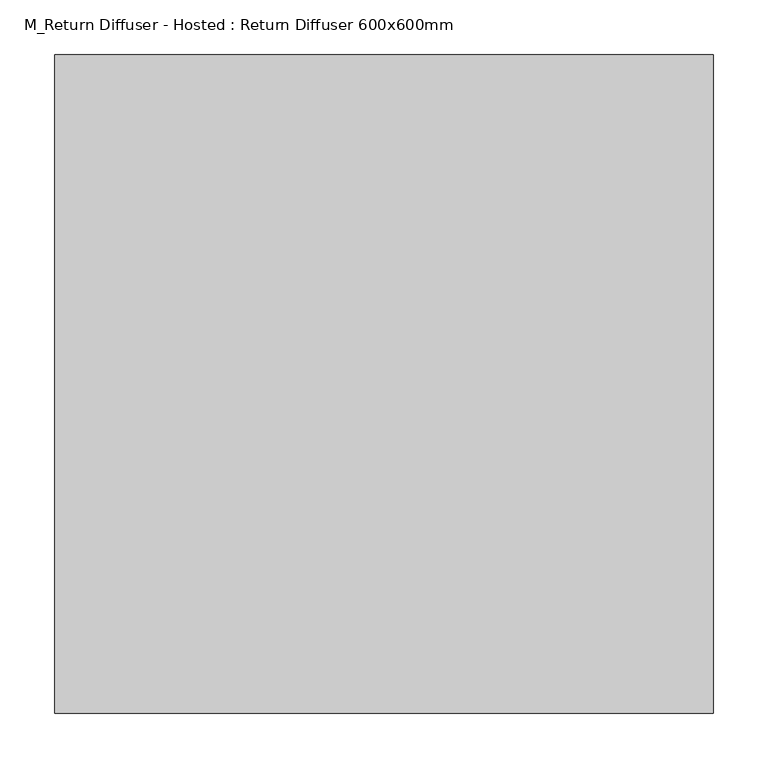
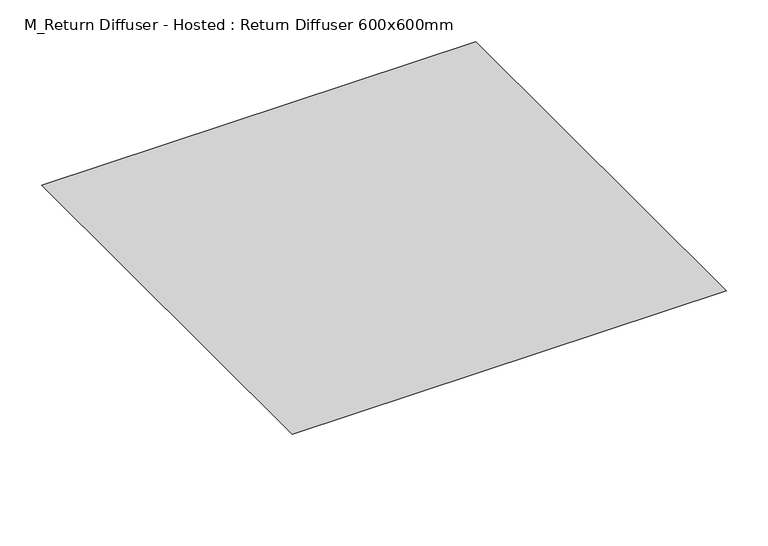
"""IFC4 building model written with IfcOpenShell, lengths in millimetres: air terminal geometry, M_Return Diffuser - Hosted : Return Diffuser 600x600mm."""

from ifc_helpers import new_model, si_unit, origin, place, context, project, spatial, faceted_brep, source, transform, mapped, element, save


def m_return_diffuser_hosted_return_diffuser_600x600mm_735a5a32(model_context):
    return source(origin(), model_context, "Body", "Brep", [
        faceted_brep([(300.0, 300.0, 0.0), (-300.0, 300.0, 0.0), (-300.0, -300.0, 0.0), (300.0, -300.0, 0.0), (150.0, 150.0, -101.8523776), (150.0, -150.0, -101.8523776), (-150.0, -150.0, -101.8523776), (-150.0, 150.0, -101.8523776)], [[[0, 1, 2, 3]], [[4, 5, 6, 7]], [[4, 7, 1, 0]], [[7, 6, 2, 1]], [[6, 5, 3, 2]], [[5, 4, 0, 3]]]),
    ])


if __name__ == "__main__":
    model = new_model("IFC4")
    model_context = context("Model", 3, world=origin())
    ifc_project = project(units=[si_unit("LENGTHUNIT", "METRE", prefix="MILLI")], contexts=[model_context])
    site = spatial("IfcSite", under=ifc_project)
    building = spatial("IfcBuilding", under=site)
    placement = place(None, origin())
    m_return_diffuser_hosted_return_diffuser_600x600mm_shape = m_return_diffuser_hosted_return_diffuser_600x600mm_735a5a32(model_context)
    element("IfcAirTerminal", 1, ObjectType="M_Return Diffuser - Hosted : Return Diffuser 600x600mm", at=placement, inside=building, context=model_context, shape_type="MappedRepresentation", body=[
        mapped(m_return_diffuser_hosted_return_diffuser_600x600mm_shape, transform((0.0, 0.0, 0.0), x_axis=(1.0, 0.0, 0.0), y_axis=(0.0, 1.0, 0.0), z_axis=(0.0, 0.0, 1.0))),
    ])
    save(model, "model.ifc")
